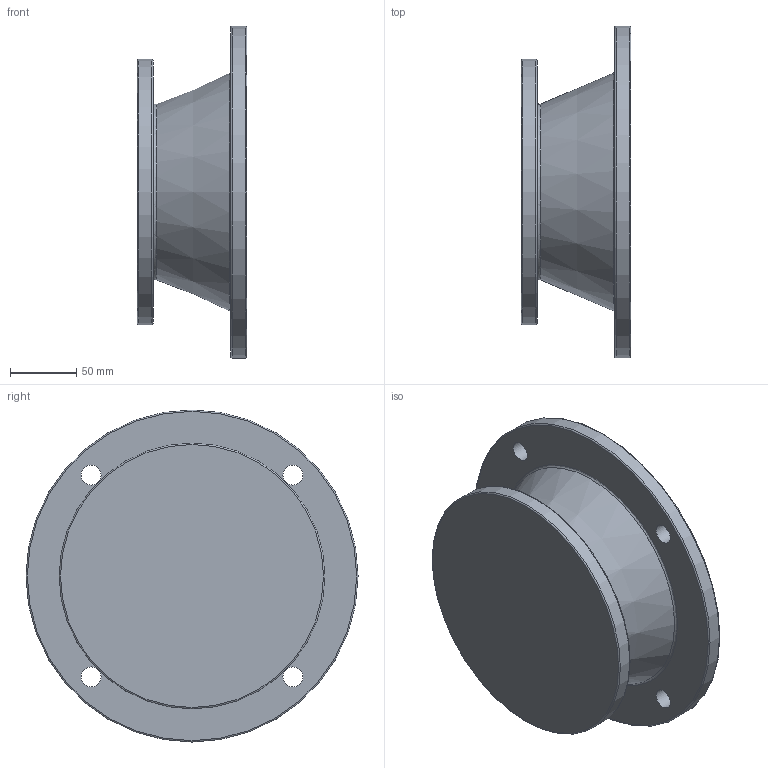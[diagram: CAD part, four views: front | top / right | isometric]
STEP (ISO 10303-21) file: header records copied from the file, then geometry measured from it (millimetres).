
FILE_DESCRIPTION((''),'2;1');
FILE_NAME('D:\PAWEŁ\ZLECENIA\2011 DualSystem\Przekładnie DR\DR70\STEP\100-112_B5_L82,5.stp','2012-06-11T12:12:08',('admin'),(''),'Autodesk Inventor 2009','Autodesk Inventor 2009','');
FILE_SCHEMA(('AUTOMOTIVE_DESIGN { 1 0 10303 214 1 1 1 1 }'));
Length unit declared in the file: millimetre
Products named in the file (1): 100-112_B5_L82,5
Bounding box: 82.5 x 250 x 250 mm (x, y, z)
Volume: 958783 mm3; surface area: 204928.1 mm2
Topology: 1 solids, 1 shells, 29 faces, 56 edges, 35 vertices
Faces by surface type: plane 11, bspline 6, cylinder 5, torus 5, cone 2
Full cylindrical faces by diameter (mm): 48 x1, 180 x1, 200 x1, 250 x1
Entity records: 875 total; most frequent: CARTESIAN_POINT 278, DIRECTION 116, ORIENTED_EDGE 78, EDGE_LOOP 60, AXIS2_PLACEMENT_3D 53, EDGE_CURVE 39, VERTEX_POINT 35, FACE_BOUND 31
